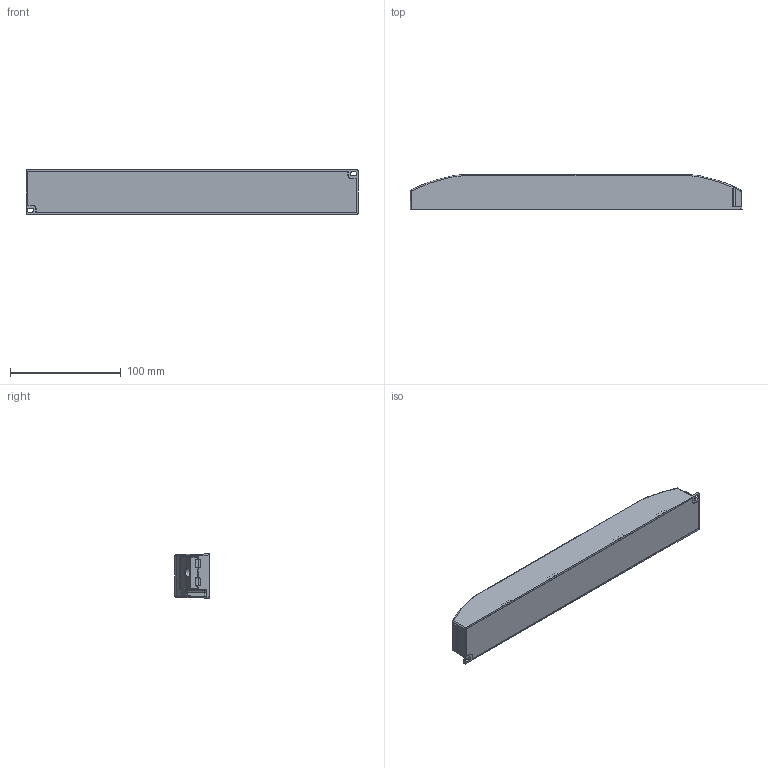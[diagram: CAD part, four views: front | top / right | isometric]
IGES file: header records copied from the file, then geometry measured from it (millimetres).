
Start section: File generated by HOOPS Exchange Version 11.2.20
Global section: file name: ELEMENT 180 24V G2 3D STEP.igs; native system: HOOPS Exchange; preprocessor: 11.2.20; date: 191204.133935; units: millimetre
Bounding box: 300 x 31 x 40 mm (x, y, z)
Volume: 68140.5 mm3; surface area: 96809.3 mm2
Topology: 4 solids, 4 shells, 904 faces, 2458 edges, 1574 vertices
Faces by surface type: bspline 904
